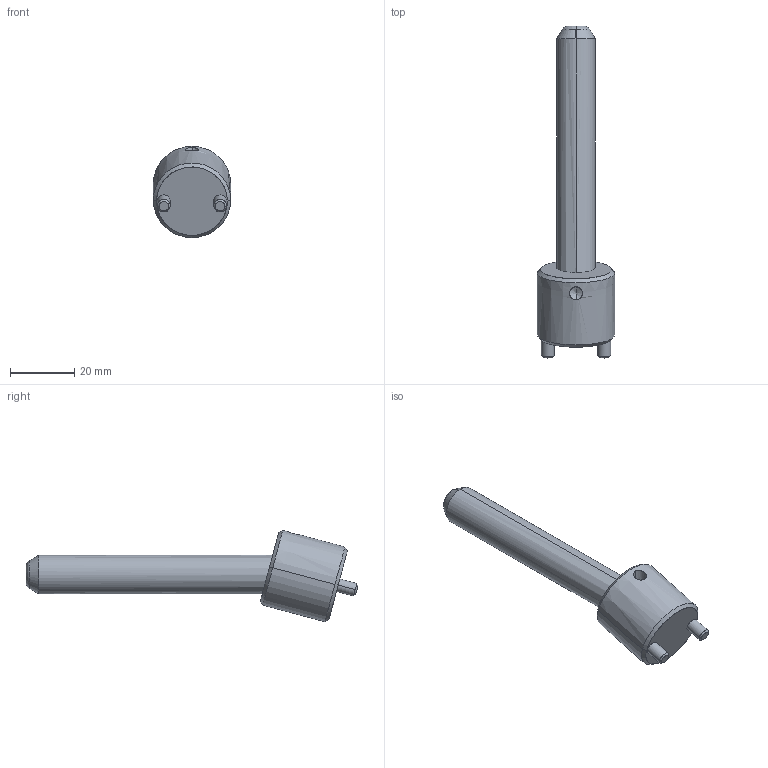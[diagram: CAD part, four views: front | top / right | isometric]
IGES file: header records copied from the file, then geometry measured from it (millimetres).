
Start section: START RECORD GO HERE.
Global section: file name: CI1512075.igs; native system: DASSAULT SYSTEMES CATIA V5 R20 - www.3ds.com; preprocessor: CATIA Version 5 Release 20 ; author: r.borello; organization: CFTORINO; date: 20190621.161215; units: millimetre
Bounding box: 24 x 103.08 x 28.36 mm (x, y, z)
Surface area: 7022.3 mm2 (no closed solid volume)
Topology: 0 solids, 0 shells, 39 faces, 162 edges, 160 vertices
Faces by surface type: revolution 32, plane 7
